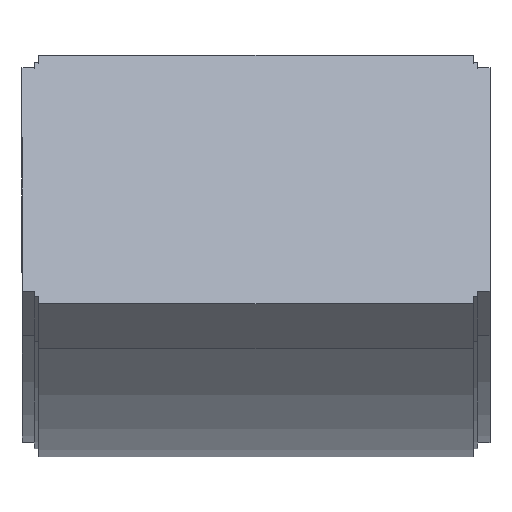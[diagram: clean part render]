
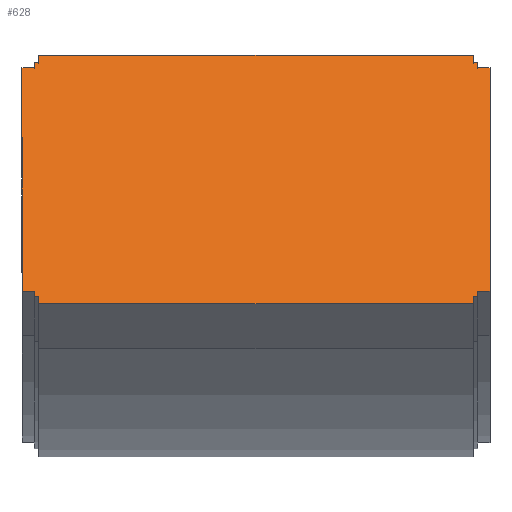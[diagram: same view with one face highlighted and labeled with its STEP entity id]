
A CAD part, top view. The second image highlights one B-rep face of the part: STEP entity #628.
In plain terms, the highlighted planar face has unit normal (0, 0.423, 0.906).
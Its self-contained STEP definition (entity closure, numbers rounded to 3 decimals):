
#1 = ORIENTED_EDGE ( 'NONE', *, *, #984, .T. ) ;
#2 = CARTESIAN_POINT ( 'NONE',  ( -110.25, 10.803, 338.544 ) ) ;
#12 = EDGE_LOOP ( 'NONE', ( #438, #191, #994, #1, #1049, #755, #1012, #1165, #474, #437, #1387, #196, #88, #695, #439, #713, #471, #1202, #25, #945 ) ) ;
#14 = DIRECTION ( 'NONE',  ( 1., 0., 0. ) ) ;
#25 = ORIENTED_EDGE ( 'NONE', *, *, #850, .T. ) ;
#26 = CARTESIAN_POINT ( 'NONE',  ( 107.95, 127.264, 284.237 ) ) ;
#27 = DIRECTION ( 'NONE',  ( 0., 0.423, 0.906 ) ) ;
#32 = LINE ( 'NONE', #524, #214 ) ;
#43 = EDGE_CURVE ( 'NONE', #1052, #1333, #1242, .T. ) ;
#45 = LINE ( 'NONE', #667, #657 ) ;
#60 = FACE_OUTER_BOUND ( 'NONE', #12, .T. ) ;
#62 = CARTESIAN_POINT ( 'NONE',  ( 116.25, 13.522, 337.276 ) ) ;
#81 = LINE ( 'NONE', #1172, #733 ) ;
#87 = CARTESIAN_POINT ( 'NONE',  ( -110.25, 13.522, 337.276 ) ) ;
#88 = ORIENTED_EDGE ( 'NONE', *, *, #703, .T. ) ;
#103 = VERTEX_POINT ( 'NONE', #794 ) ;
#106 = DIRECTION ( 'NONE',  ( 1., 0., 0. ) ) ;
#111 = VECTOR ( 'NONE', #127, 1000. ) ;
#127 = DIRECTION ( 'NONE',  ( 0., -0.906, 0.423 ) ) ;
#129 = CARTESIAN_POINT ( 'NONE',  ( -107.95, 127.264, 284.237 ) ) ;
#133 = CARTESIAN_POINT ( 'NONE',  ( 110.25, 10.803, 338.544 ) ) ;
#140 = DIRECTION ( 'NONE',  ( 1., 0., 0. ) ) ;
#142 = LINE ( 'NONE', #1044, #1129 ) ;
#155 = CARTESIAN_POINT ( 'NONE',  ( 107.95, 130.889, 282.547 ) ) ;
#169 = DIRECTION ( 'NONE',  ( -1., 0., 0. ) ) ;
#173 = VECTOR ( 'NONE', #746, 1000. ) ;
#186 = LINE ( 'NONE', #653, #625 ) ;
#188 = VECTOR ( 'NONE', #1268, 1000. ) ;
#191 = ORIENTED_EDGE ( 'NONE', *, *, #679, .T. ) ;
#196 = ORIENTED_EDGE ( 'NONE', *, *, #1011, .T. ) ;
#201 = DIRECTION ( 'NONE',  ( 0., -0.906, 0.423 ) ) ;
#212 = CARTESIAN_POINT ( 'NONE',  ( -110.25, 127.264, 284.237 ) ) ;
#214 = VECTOR ( 'NONE', #604, 1000. ) ;
#250 = VERTEX_POINT ( 'NONE', #1059 ) ;
#261 = EDGE_CURVE ( 'NONE', #1000, #1217, #993, .T. ) ;
#264 = DIRECTION ( 'NONE',  ( -1., 0., 0. ) ) ;
#273 = VERTEX_POINT ( 'NONE', #62 ) ;
#295 = EDGE_CURVE ( 'NONE', #1023, #612, #1361, .T. ) ;
#316 = VECTOR ( 'NONE', #201, 1000. ) ;
#324 = VERTEX_POINT ( 'NONE', #493 ) ;
#333 = CARTESIAN_POINT ( 'NONE',  ( -107.95, 10.803, 338.544 ) ) ;
#339 = DIRECTION ( 'NONE',  ( 0., -0.906, 0.423 ) ) ;
#391 = CARTESIAN_POINT ( 'NONE',  ( 107.95, 127.264, 284.237 ) ) ;
#430 = DIRECTION ( 'NONE',  ( 0., -0.906, 0.423 ) ) ;
#432 = LINE ( 'NONE', #1057, #316 ) ;
#433 = EDGE_CURVE ( 'NONE', #273, #324, #506, .T. ) ;
#434 = LINE ( 'NONE', #1027, #1140 ) ;
#437 = ORIENTED_EDGE ( 'NONE', *, *, #261, .T. ) ;
#438 = ORIENTED_EDGE ( 'NONE', *, *, #43, .T. ) ;
#439 = ORIENTED_EDGE ( 'NONE', *, *, #1009, .T. ) ;
#442 = VERTEX_POINT ( 'NONE', #838 ) ;
#446 = VECTOR ( 'NONE', #481, 1000. ) ;
#452 = CARTESIAN_POINT ( 'NONE',  ( -110.25, 124.545, 285.505 ) ) ;
#463 = LINE ( 'NONE', #391, #1383 ) ;
#471 = ORIENTED_EDGE ( 'NONE', *, *, #986, .T. ) ;
#474 = ORIENTED_EDGE ( 'NONE', *, *, #862, .T. ) ;
#481 = DIRECTION ( 'NONE',  ( 0., 0.906, -0.423 ) ) ;
#484 = VECTOR ( 'NONE', #1360, 1000. ) ;
#490 = CARTESIAN_POINT ( 'NONE',  ( 110.25, 124.545, 285.505 ) ) ;
#493 = CARTESIAN_POINT ( 'NONE',  ( 116.25, 124.545, 285.505 ) ) ;
#505 = CARTESIAN_POINT ( 'NONE',  ( -110.25, 127.264, 284.237 ) ) ;
#506 = LINE ( 'NONE', #1276, #851 ) ;
#513 = EDGE_CURVE ( 'NONE', #1217, #666, #81, .T. ) ;
#514 = VERTEX_POINT ( 'NONE', #1400 ) ;
#524 = CARTESIAN_POINT ( 'NONE',  ( 110.25, 127.264, 284.237 ) ) ;
#569 = EDGE_CURVE ( 'NONE', #1395, #1023, #975, .T. ) ;
#571 = DIRECTION ( 'NONE',  ( 0., -0.906, 0.423 ) ) ;
#577 = VECTOR ( 'NONE', #896, 1000. ) ;
#597 = VERTEX_POINT ( 'NONE', #1203 ) ;
#600 = CARTESIAN_POINT ( 'NONE',  ( -110.25, 124.545, 285.505 ) ) ;
#603 = DIRECTION ( 'NONE',  ( 0., 0.906, -0.423 ) ) ;
#604 = DIRECTION ( 'NONE',  ( -1., 0., 0. ) ) ;
#610 = EDGE_CURVE ( 'NONE', #1171, #1407, #884, .T. ) ;
#612 = VERTEX_POINT ( 'NONE', #776 ) ;
#625 = VECTOR ( 'NONE', #339, 1000. ) ;
#628 = ADVANCED_FACE ( 'NONE', ( #60 ), #1114, .T. ) ;
#641 = AXIS2_PLACEMENT_3D ( 'NONE', #129, #27, #893 ) ;
#644 = VECTOR ( 'NONE', #14, 1000. ) ;
#653 = CARTESIAN_POINT ( 'NONE',  ( -107.95, 127.264, 284.237 ) ) ;
#654 = EDGE_CURVE ( 'NONE', #612, #597, #912, .T. ) ;
#657 = VECTOR ( 'NONE', #571, 1000. ) ;
#666 = VERTEX_POINT ( 'NONE', #133 ) ;
#667 = CARTESIAN_POINT ( 'NONE',  ( -110.25, 127.264, 284.237 ) ) ;
#679 = EDGE_CURVE ( 'NONE', #1333, #1171, #45, .T. ) ;
#695 = ORIENTED_EDGE ( 'NONE', *, *, #433, .T. ) ;
#703 = EDGE_CURVE ( 'NONE', #514, #273, #434, .T. ) ;
#713 = ORIENTED_EDGE ( 'NONE', *, *, #880, .T. ) ;
#731 = LINE ( 'NONE', #1376, #780 ) ;
#732 = EDGE_CURVE ( 'NONE', #103, #1052, #186, .T. ) ;
#733 = VECTOR ( 'NONE', #106, 1000. ) ;
#736 = VERTEX_POINT ( 'NONE', #26 ) ;
#746 = DIRECTION ( 'NONE',  ( -1., 0., 0. ) ) ;
#748 = LINE ( 'NONE', #792, #446 ) ;
#755 = ORIENTED_EDGE ( 'NONE', *, *, #569, .T. ) ;
#776 = CARTESIAN_POINT ( 'NONE',  ( -107.95, 10.803, 338.544 ) ) ;
#777 = EDGE_CURVE ( 'NONE', #1194, #1395, #815, .T. ) ;
#780 = VECTOR ( 'NONE', #264, 1000. ) ;
#782 = VECTOR ( 'NONE', #863, 1000. ) ;
#792 = CARTESIAN_POINT ( 'NONE',  ( 110.25, 127.264, 284.237 ) ) ;
#794 = CARTESIAN_POINT ( 'NONE',  ( -107.95, 130.889, 282.547 ) ) ;
#815 = LINE ( 'NONE', #891, #644 ) ;
#838 = CARTESIAN_POINT ( 'NONE',  ( 110.25, 127.264, 284.237 ) ) ;
#850 = EDGE_CURVE ( 'NONE', #1173, #103, #731, .T. ) ;
#851 = VECTOR ( 'NONE', #1285, 1000. ) ;
#862 = EDGE_CURVE ( 'NONE', #597, #1000, #1041, .T. ) ;
#863 = DIRECTION ( 'NONE',  ( 0., 0.906, -0.423 ) ) ;
#866 = VECTOR ( 'NONE', #169, 1000. ) ;
#880 = EDGE_CURVE ( 'NONE', #250, #442, #748, .T. ) ;
#884 = LINE ( 'NONE', #452, #577 ) ;
#891 = CARTESIAN_POINT ( 'NONE',  ( -110.25, 13.522, 337.276 ) ) ;
#893 = DIRECTION ( 'NONE',  ( 1., 0., 0. ) ) ;
#896 = DIRECTION ( 'NONE',  ( -1., 0., 0. ) ) ;
#912 = LINE ( 'NONE', #333, #111 ) ;
#916 = CARTESIAN_POINT ( 'NONE',  ( 107.95, 10.803, 338.544 ) ) ;
#945 = ORIENTED_EDGE ( 'NONE', *, *, #732, .T. ) ;
#975 = LINE ( 'NONE', #2, #1402 ) ;
#984 = EDGE_CURVE ( 'NONE', #1407, #1194, #432, .T. ) ;
#986 = EDGE_CURVE ( 'NONE', #442, #736, #32, .T. ) ;
#993 = LINE ( 'NONE', #1066, #782 ) ;
#994 = ORIENTED_EDGE ( 'NONE', *, *, #610, .T. ) ;
#1000 = VERTEX_POINT ( 'NONE', #1358 ) ;
#1009 = EDGE_CURVE ( 'NONE', #324, #250, #1020, .T. ) ;
#1011 = EDGE_CURVE ( 'NONE', #666, #514, #142, .T. ) ;
#1012 = ORIENTED_EDGE ( 'NONE', *, *, #295, .T. ) ;
#1020 = LINE ( 'NONE', #490, #866 ) ;
#1023 = VERTEX_POINT ( 'NONE', #1253 ) ;
#1027 = CARTESIAN_POINT ( 'NONE',  ( 110.25, 13.522, 337.276 ) ) ;
#1040 = CARTESIAN_POINT ( 'NONE',  ( -107.95, 127.264, 284.237 ) ) ;
#1041 = LINE ( 'NONE', #1335, #484 ) ;
#1044 = CARTESIAN_POINT ( 'NONE',  ( 110.25, 10.803, 338.544 ) ) ;
#1049 = ORIENTED_EDGE ( 'NONE', *, *, #777, .T. ) ;
#1052 = VERTEX_POINT ( 'NONE', #1040 ) ;
#1057 = CARTESIAN_POINT ( 'NONE',  ( -116.25, 13.522, 337.276 ) ) ;
#1059 = CARTESIAN_POINT ( 'NONE',  ( 110.25, 124.545, 285.505 ) ) ;
#1066 = CARTESIAN_POINT ( 'NONE',  ( 107.95, 10.803, 338.544 ) ) ;
#1071 = EDGE_CURVE ( 'NONE', #736, #1173, #463, .T. ) ;
#1114 = PLANE ( 'NONE',  #641 ) ;
#1129 = VECTOR ( 'NONE', #603, 1000. ) ;
#1140 = VECTOR ( 'NONE', #140, 1000. ) ;
#1165 = ORIENTED_EDGE ( 'NONE', *, *, #654, .T. ) ;
#1170 = DIRECTION ( 'NONE',  ( 0., 0.906, -0.423 ) ) ;
#1171 = VERTEX_POINT ( 'NONE', #600 ) ;
#1172 = CARTESIAN_POINT ( 'NONE',  ( 110.25, 10.803, 338.544 ) ) ;
#1173 = VERTEX_POINT ( 'NONE', #155 ) ;
#1178 = CARTESIAN_POINT ( 'NONE',  ( -116.25, 124.545, 285.505 ) ) ;
#1194 = VERTEX_POINT ( 'NONE', #1357 ) ;
#1202 = ORIENTED_EDGE ( 'NONE', *, *, #1071, .T. ) ;
#1203 = CARTESIAN_POINT ( 'NONE',  ( -107.95, 7.178, 340.234 ) ) ;
#1217 = VERTEX_POINT ( 'NONE', #916 ) ;
#1242 = LINE ( 'NONE', #212, #173 ) ;
#1246 = CARTESIAN_POINT ( 'NONE',  ( -110.25, 10.803, 338.544 ) ) ;
#1253 = CARTESIAN_POINT ( 'NONE',  ( -110.25, 10.803, 338.544 ) ) ;
#1268 = DIRECTION ( 'NONE',  ( 1., 0., 0. ) ) ;
#1276 = CARTESIAN_POINT ( 'NONE',  ( 116.25, 13.522, 337.276 ) ) ;
#1285 = DIRECTION ( 'NONE',  ( 0., 0.906, -0.423 ) ) ;
#1333 = VERTEX_POINT ( 'NONE', #505 ) ;
#1335 = CARTESIAN_POINT ( 'NONE',  ( -107.95, 7.178, 340.234 ) ) ;
#1357 = CARTESIAN_POINT ( 'NONE',  ( -116.25, 13.522, 337.276 ) ) ;
#1358 = CARTESIAN_POINT ( 'NONE',  ( 107.95, 7.178, 340.234 ) ) ;
#1360 = DIRECTION ( 'NONE',  ( 1., 0., 0. ) ) ;
#1361 = LINE ( 'NONE', #1246, #188 ) ;
#1376 = CARTESIAN_POINT ( 'NONE',  ( -107.95, 130.889, 282.547 ) ) ;
#1383 = VECTOR ( 'NONE', #1170, 1000. ) ;
#1387 = ORIENTED_EDGE ( 'NONE', *, *, #513, .T. ) ;
#1395 = VERTEX_POINT ( 'NONE', #87 ) ;
#1400 = CARTESIAN_POINT ( 'NONE',  ( 110.25, 13.522, 337.276 ) ) ;
#1402 = VECTOR ( 'NONE', #430, 1000. ) ;
#1407 = VERTEX_POINT ( 'NONE', #1178 ) ;
